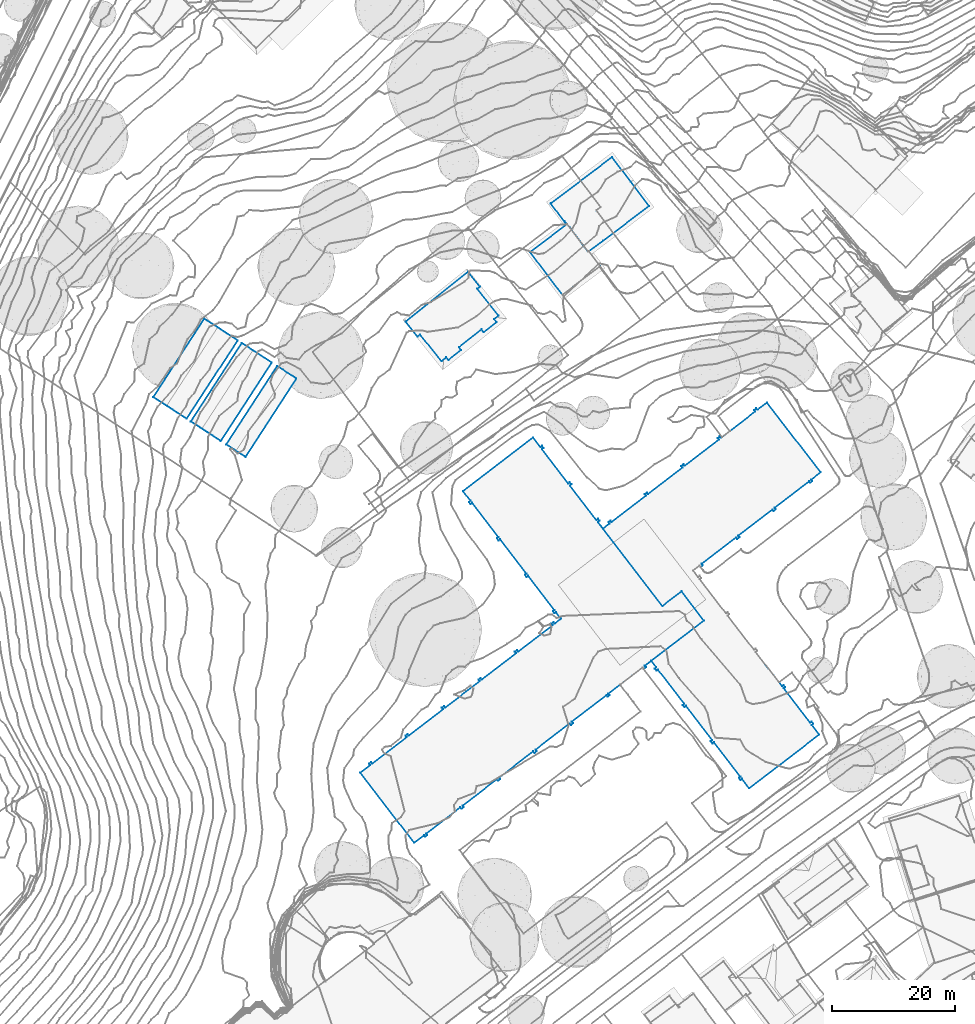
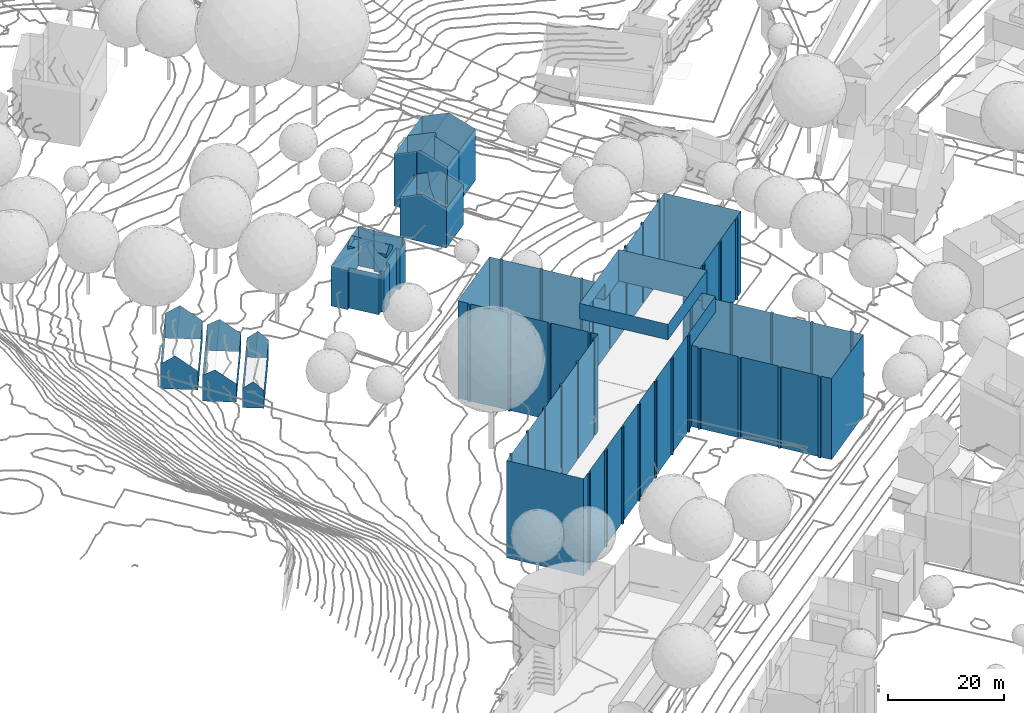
# Not in any storey, part 44 of 477: 8 walls.
"""IFC4 building model written with IfcOpenShell, lengths in metres."""

from ifc_helpers import new_model, si_unit, frame, origin_with_axes, place, context, subcontext, project, spatial, polygons, element, save


model = new_model("IFC4")

# Units and contexts
model_context = context("Model", 3, precision=1e-05, world=origin_with_axes())
body_context = subcontext(model_context, "Body", "Model", "MODEL_VIEW")
ifc_project = project(units=[si_unit("AREAUNIT", "SQUARE_METRE"), si_unit("LENGTHUNIT", "METRE")], contexts=[model_context])

# Sites, building
site_1_placement = place(None, origin_with_axes())
site_1 = spatial("IfcSite", under=ifc_project, at=site_1_placement, Name="Topoexport Site")
site_2_placement = place(site_1_placement, origin_with_axes())
site_2 = spatial("IfcSite", under=site_1, at=site_2_placement, Name="TPX_BUILDINGS")
building_1_placement = place(site_2_placement, frame((358.6987320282, 162.4100160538, 500.5526), z_axis=(0.0, 0.0, 1.0), x_axis=(1.0, 0.0, 0.0)))
building_1 = spatial("IfcBuilding", under=site_2, at=building_1_placement, Name="Building 90", CompositionType="ELEMENT")

# Wall
wall_1_placement = place(None, frame((358.6987320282, 162.4100160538, 500.5526), z_axis=(0.0, 0.0, 1.0), x_axis=(1.0, 0.0, 0.0)))
element("IfcWall", 1, at=wall_1_placement, inside=building_1, Name="Wall 0", context=body_context, shape_type="Tessellation", body=[
    polygons([(39.5829999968, 39.8338999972, 0.032), (40.6439999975, 40.6503999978, 17.1844), (39.5829999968, 39.8338999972, 17.1844), (48.2659999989, 17.2049999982, 0.032), (47.4529999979, 18.2626999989, 17.1843), (48.2659999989, 17.2049999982, 17.1843), (48.0209999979, 17.0155999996, 0.032), (48.0209999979, 17.0155999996, 17.1843), (48.2829999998, 16.6747999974, 0.032), (48.2829999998, 16.6747999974, 17.1843), (48.5279999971, 16.8631999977, 0.032), (48.5279999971, 16.8631999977, 17.1843), (52.8369999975, 11.2586999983, 0.032), (52.8369999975, 11.2588, 17.1843), (52.5920000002, 11.0692999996, 0.032), (52.5920000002, 11.0692999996, 17.1843), (52.8539999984, 10.7294999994, 0.032), (52.8539999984, 10.7294999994, 17.1843), (53.0989999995, 10.9188999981, 0.032), (53.0989999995, 10.9188999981, 17.1843), (57.4089999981, 5.3134000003, 0.0319), (57.4089999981, 5.3134000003, 17.1843), (57.1629999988, 5.125, 0.0319), (57.1629999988, 5.125, 17.1843), (57.4189999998, 4.7919999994, 0.0319), (57.4189999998, 4.7919999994, 17.1843), (57.6649999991, 4.9803999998, 0.0319), (57.6649999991, 4.9803999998, 17.1843), (61.9869999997, -0.639700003, 0.0319), (61.9869999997, -0.639700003, 17.1843), (61.7409999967, -0.8282000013, 0.0319), (61.7409999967, -0.8282000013, 17.1843), (62.0029999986, -1.1689999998, 0.0319), (62.0029999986, -1.1689999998, 17.1843), (62.248999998, -0.9805000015, 0.0319), (62.248999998, -0.9805000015, 17.1843), (63.4439999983, -2.5342000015, 0.0319), (63.4439999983, -2.5342000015, 17.1843), (74.8519999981, 6.2372999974, 0.0319), (74.8519999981, 6.2372999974, 17.1843), (73.6429999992, 7.8094999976, 0.0319), (73.6429999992, 7.8094999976, 17.1843), (73.8889999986, 7.998999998, 0.0319), (73.8889999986, 7.998999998, 17.1843), (73.6149999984, 8.3553999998, 0.0319), (73.6149999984, 8.3553999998, 17.1843), (73.368999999, 8.1669999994, 0.0319), (73.368999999, 8.1669999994, 17.1843), (69.0589999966, 13.7714999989, 0.0319), (69.0589999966, 13.7714999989, 17.1843), (69.3049999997, 13.9608999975, 0.0319), (69.3049999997, 13.9608999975, 17.1843), (69.0489999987, 14.2938999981, 0.0319), (69.0489999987, 14.2938999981, 17.1843), (68.8029999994, 14.1044999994, 0.0319), (68.8029999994, 14.1044999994, 17.1843), (64.4949999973, 19.7088999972, 0.032), (64.4949999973, 19.7088999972, 17.1843), (64.7399999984, 19.8973999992, 0.032), (64.7399999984, 19.8973999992, 17.1843), (64.4780000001, 20.2381999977, 0.032), (64.4780000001, 20.2381999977, 17.1843), (64.2329999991, 20.0497999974, 0.032), (64.2329999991, 20.0497999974, 17.1843), (59.9229999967, 25.6551999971, 0.032), (59.9229999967, 25.6551999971, 17.1843), (60.1689999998, 25.8446999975, 0.032), (60.1689999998, 25.8446999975, 17.1843), (59.9009999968, 26.1932999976, 0.032), (59.9009999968, 26.1932999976, 17.1843), (59.6549999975, 26.0047999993, 0.032), (59.6549999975, 26.0047999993, 17.1843), (55.3579999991, 31.5936999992, 0.032), (55.3579999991, 31.5936999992, 17.1843), (55.6039999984, 31.7831999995, 0.032), (55.6039999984, 31.7831999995, 17.1843), (55.3359999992, 32.1317999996, 0.032), (55.3359999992, 32.1317999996, 17.1843), (55.0899999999, 31.9422999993, 0.032), (55.0899999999, 31.9422999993, 17.1843), (54.2729999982, 33.0047999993, 0.032), (54.2729999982, 33.0047999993, 17.1843), (55.3229999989, 33.8125, 0.032), (55.3229999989, 33.8125, 17.1843), (55.5119999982, 33.566399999, 0.032), (55.5119999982, 33.566399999, 17.1843), (55.8609999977, 33.8348999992, 0.032), (55.8609999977, 33.8348999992, 17.1843), (55.6719999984, 34.0810000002, 0.032), (55.6719999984, 34.0810000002, 17.1843), (61.2839999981, 38.3954999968, 0.032), (61.2839999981, 38.3954999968, 17.1843), (61.4729999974, 38.1493999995, 0.032), (61.4729999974, 38.1493999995, 17.1843), (61.8219999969, 38.4178999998, 0.032), (61.8219999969, 38.4178999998, 17.1843), (61.6329999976, 38.6639999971, 0.032), (61.6329999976, 38.6639999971, 17.1843), (67.2209999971, 42.9618999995, 0.032), (67.2209999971, 42.9618999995, 17.1843), (67.4100000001, 42.7157999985, 0.032), (67.4100000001, 42.7157999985, 17.1843), (67.7509999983, 42.9774999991, 0.032), (67.7509999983, 42.9774999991, 17.1843), (67.561999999, 43.2236000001, 0.032), (67.561999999, 43.2236000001, 17.1843), (73.1659999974, 47.5331999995, 0.032), (73.1659999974, 47.5331999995, 17.1843), (73.3549999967, 47.2870999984, 0.032), (73.3549999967, 47.2870999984, 17.1843), (73.6949999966, 47.5487999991, 0.032), (73.6949999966, 47.5487999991, 17.1843), (73.5059999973, 47.7949000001, 0.032), (73.5059999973, 47.7949000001, 17.1843), (75.0839999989, 49.0077999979, 0.032), (75.0839999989, 49.0077999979, 17.1843), (66.3319999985, 60.4032999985, 0.032), (66.3319999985, 60.4032999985, 17.1844), (64.7649999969, 59.1991999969, 0.032), (64.7649999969, 59.1991999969, 17.1844), (64.5759999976, 59.4442999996, 0.032), (64.5759999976, 59.4442999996, 17.1844), (64.2349999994, 59.182599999, 0.032), (64.2349999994, 59.182599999, 17.1844), (64.4239999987, 58.936499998, 0.032), (64.4239999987, 58.936499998, 17.1844), (58.8279999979, 54.6338, 0.032), (58.8279999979, 54.6338, 17.1844), (58.6389999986, 54.8797999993, 0.032), (58.6389999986, 54.8797999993, 17.1844), (58.2979999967, 54.6180999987, 0.032), (58.2979999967, 54.6180999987, 17.1844), (58.4869999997, 54.3719999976, 0.032), (58.4869999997, 54.3719999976, 17.1844), (52.8829999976, 50.061499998, 0.032), (52.8829999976, 50.061499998, 17.1844), (52.6939999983, 50.307599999, 0.032), (52.6939999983, 50.307599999, 17.1844), (52.3539999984, 50.0458999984, 0.032), (52.3539999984, 50.0458999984, 17.1844), (52.5429999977, 49.7997999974, 0.032), (52.5429999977, 49.7997999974, 17.1844), (46.9299999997, 45.4833999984, 0.032), (46.9299999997, 45.4833999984, 17.1844), (46.7409999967, 45.7294999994, 0.032), (46.7409999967, 45.7294999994, 17.1844), (46.4009999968, 45.4676999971, 0.032), (46.4009999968, 45.4676999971, 17.1844), (46.5899999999, 45.2215999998, 0.032), (46.5899999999, 45.2215999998, 17.1844), (40.9849999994, 40.9129999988, 0.032), (40.9849999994, 40.9129999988, 17.1844), (40.7960000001, 41.1590999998, 0.032), (40.7960000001, 41.1590999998, 17.1844), (40.4549999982, 40.8963999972, 0.032), (40.4549999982, 40.8963999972, 17.1844), (40.6439999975, 40.6503999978, 0.032), (39.0099999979, 41.0887999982, 0.0), (38.7639999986, 40.8993999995, 20.544), (39.0099999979, 41.0887999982, 20.544), (38.7479999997, 41.4296999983, 0.0), (38.7479999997, 41.4296000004, 20.544), (38.5019999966, 41.2412, 0.0), (38.5019999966, 41.2412, 20.544), (34.1879999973, 46.8544999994, 0.0), (34.1879999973, 46.8544999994, 20.544), (34.4339999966, 47.0438999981, 0.0), (34.4339999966, 47.0438999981, 20.544), (34.1719999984, 47.3847000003, 0.0), (34.1719999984, 47.3847000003, 20.544), (33.925999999, 47.1952999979, 0.0), (33.925999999, 47.1952999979, 20.544), (29.623999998, 52.7938999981, 0.0), (29.623999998, 52.7938999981, 20.5441), (29.8699999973, 52.9824000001, 0.0), (29.8699999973, 52.9824000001, 20.5441), (29.6079999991, 53.3241999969, 0.0), (29.6079999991, 53.3241999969, 20.5441), (29.3619999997, 53.1347000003, 0.0), (29.3619999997, 53.1347000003, 20.5441), (28.1559999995, 54.7049999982, 0.0), (28.1559999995, 54.7049999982, 20.5441), (16.754999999, 45.9540999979, 0.0), (16.754999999, 45.9540999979, 20.5441), (17.9679999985, 44.3729999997, 0.0), (17.9679999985, 44.3729999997, 20.5441), (17.7219999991, 44.1835999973, 0.0), (17.7219999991, 44.1835999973, 20.5441), (17.9839999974, 43.8426999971, 0.0), (17.9839999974, 43.8426999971, 20.5441), (18.2299999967, 44.0321999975, 0.0), (18.2299999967, 44.0321999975, 20.5441), (22.5350000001, 38.422799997, 0.0), (22.5350000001, 38.422799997, 20.544), (22.2889999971, 38.2333999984, 0.0), (22.2889999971, 38.2333999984, 20.544), (22.549999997, 37.8924999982, 0.0), (22.549999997, 37.8924999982, 20.544), (22.7960000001, 38.0819999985, 0.0), (22.7960000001, 38.0819999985, 20.544), (27.0999999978, 32.4736000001, 0.0), (27.0999999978, 32.4736000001, 20.544), (26.8539999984, 32.2850999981, 0.0), (26.8539999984, 32.2850999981, 20.544), (27.1159999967, 31.9432999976, 0.0), (27.1159999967, 31.9432999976, 20.544), (27.3619999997, 32.1327999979, 0.0), (27.3619999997, 32.1327999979, 20.544), (31.6600000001, 26.5321999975, 0.0), (31.6600000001, 26.5321999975, 20.544), (31.4139999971, 26.3426999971, 0.0), (31.4139999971, 26.3426999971, 20.544), (31.675999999, 26.0018999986, 0.0), (31.675999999, 26.0018999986, 20.544), (31.9219999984, 26.1903999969, 0.0), (31.9219999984, 26.1903999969, 20.544), (32.737999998, 25.1278999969, 0.0), (32.737999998, 25.1278999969, 20.544), (31.6719999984, 24.3104999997, 0.0), (31.6719999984, 24.3104999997, 20.544), (31.4829999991, 24.556599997, 0.0), (31.4829999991, 24.556599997, 20.544), (31.1419999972, 24.2949000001, 0.0), (31.1419999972, 24.2949000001, 20.544), (31.3310000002, 24.0487999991, 0.0), (31.3310000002, 24.0487999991, 20.544), (25.7309999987, 19.75, 0.0), (25.7309999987, 19.75, 20.544), (25.5419999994, 19.9969999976, 0.0), (25.5419999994, 19.9969999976, 20.544), (25.2009999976, 19.7342999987, 0.0), (25.2009999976, 19.7342999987, 20.544), (25.3899999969, 19.4881999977, 0.0), (25.3899999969, 19.4881999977, 20.544), (19.7899999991, 15.1903999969, 0.0), (19.7899999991, 15.1903999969, 20.544), (19.6009999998, 15.436499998, 0.0), (19.6009999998, 15.436499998, 20.544), (19.2599999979, 15.1747999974, 0.0), (19.2599999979, 15.1747999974, 20.544), (19.4489999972, 14.9287, 0.0), (19.4489999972, 14.9287, 20.544), (13.8259999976, 10.6112999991, 0.0), (13.8259999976, 10.6112999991, 20.544), (13.6369999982, 10.8574000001, 0.0), (13.6369999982, 10.8574000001, 20.544), (13.2949999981, 10.5956999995, 0.0), (13.2949999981, 10.5956999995, 20.544), (13.4839999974, 10.3495999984, 0.0), (13.4839999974, 10.3495999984, 20.544), (7.8769999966, 6.0458999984, 0.0), (7.8769999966, 6.0458999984, 20.544), (7.6879999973, 6.2919999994, 0.0), (7.6879999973, 6.2919999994, 20.544), (7.3469999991, 6.0292999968, 0.0), (7.3469999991, 6.0292999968, 20.544), (7.5359999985, 5.7840999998, 0.0), (7.5359999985, 5.7840999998, 20.544), (1.9269999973, 1.4784999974, 0.0), (1.9269999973, 1.4784999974, 20.544), (1.737999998, 1.7245999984, 0.0), (1.737999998, 1.7245999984, 20.544), (1.3979999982, 1.4637999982, 0.0), (1.3979999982, 1.4637999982, 20.544), (1.5869999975, 1.2176999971, 0.0), (1.5869999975, 1.2176999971, 20.544), (0.0, 0.0, 0.0), (0.0, 0.0, 20.544), (8.7929999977, -11.4101999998, 0.0), (8.7929999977, -11.4101999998, 20.544), (10.3619999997, -10.2061000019, 0.0), (10.3619999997, -10.2061000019, 20.544), (10.550999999, -10.452200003, 0.0), (10.550999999, -10.452200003, 20.544), (10.8919999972, -10.1905000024, 0.0), (10.8919999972, -10.1905000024, 20.544), (10.7029999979, -9.9444000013, 0.0), (10.7029999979, -9.9444000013, 20.544), (16.310999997, -5.6407000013, 0.0), (16.310999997, -5.6407000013, 20.544), (16.5, -5.8868000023, 0.0), (16.5, -5.8868000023, 20.544), (16.8409999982, -5.6240999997, 0.0), (16.8409999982, -5.6240999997, 20.544), (16.6519999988, -5.3780000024, 0.0), (16.6519999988, -5.3780000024, 20.544), (22.2599999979, -1.0743000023, 0.0), (22.2599999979, -1.0743000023, 20.544), (22.4489999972, -1.3203999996, 0.0), (22.4489999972, -1.3203999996, 20.544), (22.7899999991, -1.058600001, 0.0), (22.7899999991, -1.058600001, 20.544), (22.6009999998, -0.8125, 0.0), (22.6009999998, -0.8125, 20.544), (28.2089999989, 3.4921999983, 0.0), (28.2089999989, 3.4921999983, 20.544), (28.3979999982, 3.2460999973, 0.0), (28.3979999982, 3.2460999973, 20.544), (28.7390000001, 3.5077999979, 0.0), (28.7390000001, 3.5077999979, 20.544), (28.549999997, 3.753899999, 0.0), (28.549999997, 3.753899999, 20.544), (34.1499999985, 8.052699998, 0.0), (34.1499999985, 8.052699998, 20.544), (34.3389999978, 7.806599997, 0.0), (34.3389999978, 7.806599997, 20.544), (34.6879999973, 8.0751999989, 0.0), (34.6879999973, 8.0751999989, 20.544), (34.498999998, 8.3202999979, 0.0), (34.498999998, 8.3202999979, 20.544), (40.1629999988, 12.6678999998, 0.0), (40.1629999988, 12.6678999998, 20.544), (40.3519999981, 12.4217999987, 0.0), (40.3519999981, 12.4217999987, 20.544), (40.6219999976, 12.628899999, 0.0), (40.6219999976, 12.628899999, 20.544), (40.4329999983, 12.875, 0.0), (40.4329999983, 12.875, 20.544), (46.0409999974, 17.1787, 0.0), (46.0409999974, 17.1787, 20.544), (46.2299999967, 16.932599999, 0.0), (46.2299999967, 16.932599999, 20.544), (46.5789999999, 17.2010999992, 0.0), (46.5789999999, 17.2010999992, 20.544), (46.3899999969, 17.4463, 0.0), (46.3899999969, 17.4463, 20.544), (52.379999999, 29.6044999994, 0.0), (56.0319999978, 24.8475999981, 0.032), (52.379999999, 29.6044999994, 0.0318), (54.4849999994, 26.8622999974, 17.1843), (56.0319999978, 24.8475999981, 20.544), (54.4849999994, 26.8622999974, 20.544), (49.2740000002, 27.2206999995, 0.0), (49.2740000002, 27.2206999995, 0.032), (42.3459999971, 17.5449000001, 20.544), (32.2749999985, 30.6639999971, 23.8497), (42.3459999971, 17.5449000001, 23.8497), (56.3209999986, 28.2723999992, 17.1843), (56.3209999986, 28.2723999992, 23.8497), (46.2509999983, 41.3915999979, 17.1844), (46.2509999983, 41.3915999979, 23.8497), (32.2749999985, 30.6639999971, 20.544), (41.3039999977, 37.5936999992, 20.544), (41.3039999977, 37.5936999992, 17.1844), (38.7639999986, 40.8993999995, 0.0), (56.0319999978, 24.8475999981, 17.1843), (47.4529999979, 18.2626999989, 0.032), (56.0319999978, 24.8475999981, 0.0)], [[[3, 2, 1]], [[6, 5, 4]], [[8, 6, 7]], [[10, 8, 9]], [[12, 10, 11]], [[14, 12, 13]], [[16, 14, 15]], [[18, 16, 17]], [[20, 18, 19]], [[22, 20, 21]], [[24, 22, 23]], [[26, 24, 25]], [[28, 26, 27]], [[30, 28, 29]], [[32, 30, 31]], [[34, 32, 33]], [[36, 34, 35]], [[38, 36, 37]], [[40, 38, 39]], [[42, 40, 41]], [[44, 42, 43]], [[46, 44, 45]], [[48, 46, 47]], [[50, 48, 49]], [[52, 50, 51]], [[54, 52, 53]], [[56, 54, 55]], [[58, 56, 57]], [[60, 58, 59]], [[62, 60, 61]], [[64, 62, 63]], [[66, 64, 65]], [[68, 66, 67]], [[70, 68, 69]], [[72, 70, 71]], [[74, 72, 73]], [[76, 74, 75]], [[78, 76, 77]], [[80, 78, 79]], [[82, 80, 81]], [[84, 82, 83]], [[86, 84, 85]], [[88, 86, 87]], [[90, 88, 89]], [[92, 90, 91]], [[94, 92, 93]], [[96, 94, 95]], [[98, 96, 97]], [[100, 98, 99]], [[102, 100, 101]], [[104, 102, 103]], [[106, 104, 105]], [[108, 106, 107]], [[110, 108, 109]], [[112, 110, 111]], [[114, 112, 113]], [[116, 114, 115]], [[118, 116, 117]], [[120, 118, 119]], [[122, 120, 121]], [[124, 122, 123]], [[126, 124, 125]], [[128, 126, 127]], [[130, 128, 129]], [[132, 130, 131]], [[134, 132, 133]], [[136, 134, 135]], [[138, 136, 137]], [[140, 138, 139]], [[142, 140, 141]], [[144, 142, 143]], [[146, 144, 145]], [[148, 146, 147]], [[150, 148, 149]], [[152, 150, 151]], [[154, 152, 153]], [[156, 154, 155]], [[2, 156, 157]], [[160, 159, 158]], [[162, 160, 161]], [[164, 162, 163]], [[166, 164, 165]], [[168, 166, 167]], [[170, 168, 169]], [[172, 170, 171]], [[174, 172, 173]], [[176, 174, 175]], [[178, 176, 177]], [[180, 178, 179]], [[182, 180, 181]], [[184, 182, 183]], [[186, 184, 185]], [[188, 186, 187]], [[190, 188, 189]], [[192, 190, 191]], [[194, 192, 193]], [[196, 194, 195]], [[198, 196, 197]], [[200, 198, 199]], [[202, 200, 201]], [[204, 202, 203]], [[206, 204, 205]], [[208, 206, 207]], [[210, 208, 209]], [[212, 210, 211]], [[214, 212, 213]], [[216, 214, 215]], [[218, 216, 217]], [[220, 218, 219]], [[222, 220, 221]], [[224, 222, 223]], [[226, 224, 225]], [[228, 226, 227]], [[230, 228, 229]], [[232, 230, 231]], [[234, 232, 233]], [[236, 234, 235]], [[238, 236, 237]], [[240, 238, 239]], [[242, 240, 241]], [[244, 242, 243]], [[246, 244, 245]], [[248, 246, 247]], [[250, 248, 249]], [[252, 250, 251]], [[254, 252, 253]], [[256, 254, 255]], [[258, 256, 257]], [[260, 258, 259]], [[262, 260, 261]], [[264, 262, 263]], [[266, 264, 265]], [[268, 266, 267]], [[270, 268, 269]], [[272, 270, 271]], [[274, 272, 273]], [[276, 274, 275]], [[278, 276, 277]], [[280, 278, 279]], [[282, 280, 281]], [[284, 282, 283]], [[286, 284, 285]], [[288, 286, 287]], [[290, 288, 289]], [[292, 290, 291]], [[294, 292, 293]], [[296, 294, 295]], [[298, 296, 297]], [[300, 298, 299]], [[302, 300, 301]], [[304, 302, 303]], [[306, 304, 305]], [[308, 306, 307]], [[310, 308, 309]], [[312, 310, 311]], [[314, 312, 313]], [[316, 314, 315]], [[318, 316, 317]], [[320, 318, 319]], [[322, 320, 321]], [[324, 322, 323]], [[326, 324, 325]], [[329, 328, 327]], [[332, 331, 330]], [[334, 329, 333]], [[337, 336, 335]], [[339, 332, 338]], [[332, 339, 337]], [[335, 332, 337]], [[341, 339, 340]], [[336, 343, 342]], [[343, 336, 341]], [[343, 340, 344]], [[340, 343, 341]], [[3, 345, 159]], [[1, 345, 3]], [[3, 159, 344]], [[334, 333, 1]], [[346, 331, 5]], [[325, 5, 326]], [[348, 347, 325]], [[347, 5, 325]], [[2, 157, 1]], [[5, 347, 4]], [[6, 4, 7]], [[8, 7, 9]], [[10, 9, 11]], [[12, 11, 13]], [[14, 13, 15]], [[16, 15, 17]], [[18, 17, 19]], [[20, 19, 21]], [[22, 21, 23]], [[24, 23, 25]], [[26, 25, 27]], [[28, 27, 29]], [[30, 29, 31]], [[32, 31, 33]], [[34, 33, 35]], [[36, 35, 37]], [[38, 37, 39]], [[40, 39, 41]], [[42, 41, 43]], [[44, 43, 45]], [[46, 45, 47]], [[48, 47, 49]], [[50, 49, 51]], [[52, 51, 53]], [[54, 53, 55]], [[56, 55, 57]], [[58, 57, 59]], [[60, 59, 61]], [[62, 61, 63]], [[64, 63, 65]], [[66, 65, 67]], [[68, 67, 69]], [[70, 69, 71]], [[72, 71, 73]], [[74, 73, 75]], [[76, 75, 77]], [[78, 77, 79]], [[80, 79, 81]], [[82, 81, 83]], [[84, 83, 85]], [[86, 85, 87]], [[88, 87, 89]], [[90, 89, 91]], [[92, 91, 93]], [[94, 93, 95]], [[96, 95, 97]], [[98, 97, 99]], [[100, 99, 101]], [[102, 101, 103]], [[104, 103, 105]], [[106, 105, 107]], [[108, 107, 109]], [[110, 109, 111]], [[112, 111, 113]], [[114, 113, 115]], [[116, 115, 117]], [[118, 117, 119]], [[120, 119, 121]], [[122, 121, 123]], [[124, 123, 125]], [[126, 125, 127]], [[128, 127, 129]], [[130, 129, 131]], [[132, 131, 133]], [[134, 133, 135]], [[136, 135, 137]], [[138, 137, 139]], [[140, 139, 141]], [[142, 141, 143]], [[144, 143, 145]], [[146, 145, 147]], [[148, 147, 149]], [[150, 149, 151]], [[152, 151, 153]], [[154, 153, 155]], [[156, 155, 157]], [[159, 345, 158]], [[160, 158, 161]], [[162, 161, 163]], [[164, 163, 165]], [[166, 165, 167]], [[168, 167, 169]], [[170, 169, 171]], [[172, 171, 173]], [[174, 173, 175]], [[176, 175, 177]], [[178, 177, 179]], [[180, 179, 181]], [[182, 181, 183]], [[184, 183, 185]], [[186, 185, 187]], [[188, 187, 189]], [[190, 189, 191]], [[192, 191, 193]], [[194, 193, 195]], [[196, 195, 197]], [[198, 197, 199]], [[200, 199, 201]], [[202, 201, 203]], [[204, 203, 205]], [[206, 205, 207]], [[208, 207, 209]], [[210, 209, 211]], [[212, 211, 213]], [[214, 213, 215]], [[216, 215, 217]], [[218, 217, 219]], [[220, 219, 221]], [[222, 221, 223]], [[224, 223, 225]], [[226, 225, 227]], [[228, 227, 229]], [[230, 229, 231]], [[232, 231, 233]], [[234, 233, 235]], [[236, 235, 237]], [[238, 237, 239]], [[240, 239, 241]], [[242, 241, 243]], [[244, 243, 245]], [[246, 245, 247]], [[248, 247, 249]], [[250, 249, 251]], [[252, 251, 253]], [[254, 253, 255]], [[256, 255, 257]], [[258, 257, 259]], [[260, 259, 261]], [[262, 261, 263]], [[264, 263, 265]], [[266, 265, 267]], [[268, 267, 269]], [[270, 269, 271]], [[272, 271, 273]], [[274, 273, 275]], [[276, 275, 277]], [[278, 277, 279]], [[280, 279, 281]], [[282, 281, 283]], [[284, 283, 285]], [[286, 285, 287]], [[288, 287, 289]], [[290, 289, 291]], [[292, 291, 293]], [[294, 293, 295]], [[296, 295, 297]], [[298, 297, 299]], [[300, 299, 301]], [[302, 301, 303]], [[304, 303, 305]], [[306, 305, 307]], [[308, 307, 309]], [[310, 309, 311]], [[312, 311, 313]], [[314, 313, 315]], [[316, 315, 317]], [[318, 317, 319]], [[320, 319, 321]], [[322, 321, 323]], [[324, 323, 325]], [[328, 348, 327]], [[331, 346, 330]], [[329, 327, 333]], [[336, 342, 335]], [[332, 330, 338]], [[339, 338, 340]], [[159, 343, 344]], [[333, 345, 1]], [[331, 326, 5]], [[328, 347, 348]]]),
])

# Building
building_2_placement = place(site_2_placement, frame((331.0367320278, 219.7098160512, 508.5819), z_axis=(0.0, 0.0, 1.0), x_axis=(1.0, 0.0, 0.0)))
building_2 = spatial("IfcBuilding", under=site_2, at=building_2_placement, Name="Building 91", CompositionType="ELEMENT")

# Wall
wall_2_placement = place(None, frame((331.0367320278, 219.7098160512, 508.5819), z_axis=(0.0, 0.0, 1.0), x_axis=(1.0, 0.0, 0.0)))
element("IfcWall", 2, at=wall_2_placement, inside=building_2, Name="Wall 0", context=body_context, shape_type="Tessellation", body=[
    polygons([(0.0, 0.0, 0.0), (8.3099999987, 12.7871000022, 5.4855), (0.0, 0.0, 5.4855), (13.1989999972, 9.6084000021, 0.0), (4.8889999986, -3.1777999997, 3.8936), (13.1989999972, 9.6084000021, 3.8936), (10.1079999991, 11.6181000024, 0.0), (8.3099999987, 12.7871000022, 0.0), (10.1079999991, 11.6181000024, 6.7144), (1.7980000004, -1.1689999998, 0.0), (4.8889999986, -3.1777999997, 0.0), (1.7980000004, -1.1689999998, 6.7144)], [[[3, 2, 1]], [[6, 5, 4]], [[8, 2, 7]], [[7, 2, 9]], [[7, 6, 4]], [[6, 7, 9]], [[11, 5, 10]], [[3, 5, 12]], [[1, 10, 5]], [[1, 5, 3]], [[2, 8, 1]], [[5, 11, 4]]]),
])

# Building
building_3_placement = place(site_2_placement, frame((336.8067320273, 215.9607160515, 507.462), z_axis=(0.0, 0.0, 1.0), x_axis=(1.0, 0.0, 0.0)))
building_3 = spatial("IfcBuilding", under=site_2, at=building_3_placement, Name="Building 92", CompositionType="ELEMENT")

# Wall
wall_3_placement = place(None, frame((336.8067320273, 215.9607160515, 507.462), z_axis=(0.0, 0.0, 1.0), x_axis=(1.0, 0.0, 0.0)))
element("IfcWall", 3, at=wall_3_placement, inside=building_3, Name="Wall 0", context=body_context, shape_type="Tessellation", body=[
    polygons([(0.0, 0.0, 0.0), (8.3090000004, 12.7862000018, 4.0656), (0.0, 0.0, 4.0656), (11.4519999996, 10.7422000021, 0.0), (3.1429999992, -2.0438999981, 3.7817), (11.4519999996, 10.7422000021, 3.7817), (9.8939999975, 11.754900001, 0.0), (8.3090000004, 12.7862000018, 0.0), (9.8939999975, 11.754900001, 5.5585), (1.5850000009, -1.0311999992, 0.0), (3.1429999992, -2.0438999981, 0.0), (1.5850000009, -1.0311999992, 5.5585)], [[[3, 2, 1]], [[6, 5, 4]], [[8, 2, 7]], [[7, 2, 4]], [[2, 6, 4]], [[6, 2, 9]], [[11, 5, 10]], [[3, 5, 12]], [[3, 1, 10]], [[3, 10, 5]], [[2, 8, 1]], [[5, 11, 4]]]),
])

# Building
building_4_placement = place(site_2_placement, frame((324.9327320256, 223.6766160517, 510.9427), z_axis=(0.0, 0.0, 1.0), x_axis=(1.0, 0.0, 0.0)))
building_4 = spatial("IfcBuilding", under=site_2, at=building_4_placement, Name="Building 93", CompositionType="ELEMENT")

# Wall
wall_4_placement = place(None, frame((324.9327320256, 223.6766160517, 510.9427), z_axis=(0.0, 0.0, 1.0), x_axis=(1.0, 0.0, 0.0)))
element("IfcWall", 4, at=wall_4_placement, inside=building_4, Name="Wall 0", context=body_context, shape_type="Tessellation", body=[
    polygons([(0.0, 0.0, 0.0), (8.3100000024, 12.7871000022, 5.2575), (0.0, 0.0, 5.2575), (13.7430000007, 9.2558000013, 0.0), (5.4330000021, -3.5313000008, 3.9306), (13.7430000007, 9.2558000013, 3.9306), (10.4539999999, 11.3935000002, 0.0), (8.3100000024, 12.7871000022, 0.0), (10.4539999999, 11.3935000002, 7.0203), (2.1440000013, -1.3925999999, 0.0), (5.4330000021, -3.5313000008, 0.0), (2.1440000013, -1.3925999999, 7.0203)], [[[3, 2, 1]], [[6, 5, 4]], [[8, 2, 7]], [[7, 2, 6]], [[7, 6, 4]], [[6, 2, 9]], [[11, 5, 10]], [[3, 5, 12]], [[3, 1, 10]], [[3, 10, 5]], [[2, 8, 1]], [[5, 11, 4]]]),
])

# Building
building_5_placement = place(site_2_placement, frame((366.0957320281, 236.0047160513, 506.5151), z_axis=(0.0, 0.0, 1.0), x_axis=(1.0, 0.0, 0.0)))
building_5 = spatial("IfcBuilding", under=site_2, at=building_5_placement, Name="Building 95", CompositionType="ELEMENT")

# Wall
wall_5_placement = place(None, frame((366.0957320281, 236.0047160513, 506.5151), z_axis=(0.0, 0.0, 1.0), x_axis=(1.0, 0.0, 0.0)))
element("IfcWall", 5, at=wall_5_placement, inside=building_5, Name="Wall 0", context=body_context, shape_type="Tessellation", body=[
    polygons([(11.4569999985, -1.5126999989, 9.0021), (11.4569999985, -1.5126999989, 9.8031), (10.5029999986, -0.3145000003, 9.8031), (15.1469999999, 0.9766000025, 3.2117), (13.4049999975, 3.1562000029, 8.5782), (15.1469999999, 0.9766000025, 0.0), (11.6629999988, 5.3349000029, 0.0), (12.0999999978, 5.6845999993, 8.2772), (12.0999999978, 5.6845999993, 0.0), (11.6629999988, 5.3349000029, 8.5812), (10.1539999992, 8.1191000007, 6.2104), (10.1539999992, 8.1191000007, 8.2802), (10.1539999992, 8.1191000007, 2.0698), (10.1539999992, 8.1191000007, 0.0), (6.623999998, -5.8378999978, 8.8071), (6.9679999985, -6.2665999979, 8.5192), (6.9679999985, -6.2665999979, 0.0), (6.623999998, -5.8378999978, 4.4036), (9.0219999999, -4.625, 0.0), (8.6779999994, -4.1952999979, 0.0), (9.0219999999, -4.625, 8.5222), (12.3489999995, -1.2597999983, 8.8151), (12.3489999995, -1.2597999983, 0.0), (8.6779999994, -4.1952999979, 8.8101), (12.742999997, -1.7520000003, 8.4862), (12.742999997, -1.7520000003, 0.0), (14.8279999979, -0.0849999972, 0.0), (14.4340000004, 0.4072000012, 5.5115), (14.8279999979, -0.0849999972, 8.4892), (14.4340000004, 0.4072000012, 8.8181), (14.4340000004, 0.4072000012, 0.0), (5.8429999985, -6.4618999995, 4.8185), (4.1009999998, -4.2831999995, 8.5632), (5.8429999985, -6.4618999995, 8.5662), (2.3599999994, -2.1034999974, 0.0), (5.8429999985, -6.4618999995, 0.0), (0.0, 0.0, 2.0648), (0.0, 0.0, 6.2014), (1.9459999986, -2.4345999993, 0.0), (0.0, 0.0, 8.2692), (1.9459999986, -2.4345999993, 8.2722), (0.0, 0.0, 0.0), (6.9809999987, 4.1103000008, 9.0251), (7.930999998, 2.9169999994, 9.8031), (6.9809999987, 4.1103000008, 9.8031), (9.0289999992, -3.4452999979, 9.0031), (8.0749999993, -2.2470999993, 9.8031), (9.0289999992, -3.4452999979, 9.8031), (4.5529999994, 2.1777000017, 9.0251), (4.5529999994, 2.1777000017, 9.8031), (5.5029999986, 0.9844000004, 9.8031), (10.305999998, -2.427699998, 9.0031), (10.305999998, -2.427699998, 10.869), (5.8299999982, 3.1953000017, 9.0251), (5.8299999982, 3.1953000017, 10.869), (0.2569999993, 0.2050999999, 8.4482), (9.9329999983, 7.9433000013, 0.0), (0.2569999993, 0.2050999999, 0.0), (9.9329999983, 7.9433000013, 8.4342), (14.7960000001, 0.6963, 0.0), (14.7960000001, 0.6963, 8.8191), (15.1469999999, 0.9766000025, 8.5752), (6.1889999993, -6.1855999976, 8.8061), (6.623999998, -5.8378999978, 0.0), (6.1889999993, -6.1855999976, 0.0), (2.3599999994, -2.1034999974, 8.5602)], [[[3, 2, 1]], [[6, 5, 4]], [[7, 5, 6]], [[10, 9, 8]], [[10, 7, 9]], [[12, 8, 11]], [[14, 13, 8]], [[9, 14, 8]], [[17, 16, 15]], [[18, 17, 15]], [[19, 16, 17]], [[21, 19, 20]], [[24, 23, 22]], [[24, 20, 23]], [[26, 25, 23]], [[22, 23, 25]], [[25, 26, 27]], [[30, 29, 28]], [[29, 27, 31]], [[34, 33, 32]], [[36, 32, 35]], [[33, 35, 32]], [[39, 38, 37]], [[41, 40, 39]], [[42, 39, 37]], [[41, 39, 35]], [[45, 44, 43]], [[48, 47, 46]], [[51, 50, 49]], [[1, 2, 52]], [[52, 2, 53]], [[53, 48, 46]], [[53, 46, 52]], [[49, 50, 54]], [[54, 50, 55]], [[54, 45, 43]], [[45, 54, 55]], [[40, 56, 38]], [[37, 38, 13]], [[58, 37, 57]], [[58, 42, 37]], [[11, 38, 56]], [[59, 12, 11]], [[11, 13, 38]], [[13, 57, 37]], [[14, 57, 13]], [[56, 59, 11]], [[31, 4, 28]], [[60, 6, 4]], [[31, 60, 4]], [[28, 62, 61]], [[28, 61, 30]], [[62, 28, 4]], [[15, 63, 18]], [[65, 64, 18]], [[32, 18, 63]], [[18, 32, 65]], [[65, 32, 36]], [[32, 63, 34]], [[10, 5, 7]], [[62, 4, 5]], [[11, 8, 13]], [[18, 64, 17]], [[19, 21, 16]], [[20, 24, 21]], [[25, 27, 29]], [[29, 31, 28]], [[66, 35, 33]], [[40, 38, 39]], [[35, 66, 41]]]),
])

# Building
building_6_placement = place(site_2_placement, frame((389.7587320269, 255.2674160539, 507.648), z_axis=(0.0, 0.0, 1.0), x_axis=(1.0, 0.0, 0.0)))
building_6 = spatial("IfcBuilding", under=site_2, at=building_6_placement, Name="Building 96", CompositionType="ELEMENT")

# Wall
wall_6_placement = place(None, frame((389.7587320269, 255.2674160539, 507.648), z_axis=(0.0, 0.0, 1.0), x_axis=(1.0, 0.0, 0.0)))
element("IfcWall", 6, at=wall_6_placement, inside=building_6, Name="Wall 0", context=body_context, shape_type="Tessellation", body=[
    polygons([(0.057, 0.0419999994, 10.934), (0.0, 0.0, 10.934), (0.0, 0.0, 0.0), (0.0540000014, 0.0399999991, 0.0), (2.1919999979, -2.8936000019, 12.4298), (2.2520000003, -2.9736000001, 0.0), (2.5890000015, -3.4180000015, 0.0), (2.5890000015, -3.4180000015, 12.7008), (2.6359999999, -3.380900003, 0.0), (2.6359999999, -3.380900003, 12.7008), (2.686999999, -3.3447000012, 0.0), (2.686999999, -3.3447000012, 12.7008), (3.1349999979, -3.9356000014, 13.0067), (3.1349999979, -3.9346000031, 0.0), (7.9470000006, -0.308600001, 13.0067), (4.9050000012, 3.7089999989, 10.93), (4.9050000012, 3.7089999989, 0.0), (8.1559999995, -0.5850000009, 0.0), (2.8830000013, 2.1805999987, 10.932), (6.1270000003, -7.884800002, 10.9239), (6.1270000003, -7.884800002, 0.0), (8.4750000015, -6.125, 10.9209), (10.2269999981, -4.8115000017, 10.9179), (8.5309999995, -6.0830000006, 0.0), (10.2269999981, -4.8115000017, 0.0), (7.436999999, -1.125, 0.0), (7.436999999, -1.125, 12.8618), (8.1559999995, -0.5850000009, 12.8608)], [[[3, 2, 1]], [[1, 4, 3]], [[6, 5, 3]], [[5, 2, 3]], [[8, 5, 7]], [[5, 6, 7]], [[10, 8, 9]], [[8, 7, 9]], [[10, 9, 11]], [[14, 13, 12]], [[11, 14, 12]], [[17, 16, 15]], [[18, 17, 15]], [[19, 4, 1]], [[19, 17, 4]], [[17, 19, 16]], [[13, 21, 20]], [[13, 14, 21]], [[24, 23, 22]], [[23, 24, 25]], [[22, 21, 24]], [[27, 23, 26]], [[28, 26, 18]], [[15, 28, 18]], [[11, 12, 10]], [[20, 21, 22]], [[23, 25, 26]], [[27, 26, 28]]]),
])

# Building
building_7_placement = place(site_2_placement, frame((394.6637320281, 258.9764160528, 507.648), z_axis=(0.0, 0.0, 1.0), x_axis=(1.0, 0.0, 0.0)))
building_7 = spatial("IfcBuilding", under=site_2, at=building_7_placement, Name="Building 97", CompositionType="ELEMENT")

# Wall
wall_7_placement = place(None, frame((394.6637320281, 258.9764160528, 507.648), z_axis=(0.0, 0.0, 1.0), x_axis=(1.0, 0.0, 0.0)))
element("IfcWall", 7, at=wall_7_placement, inside=building_7, Name="Wall 0", context=body_context, shape_type="Tessellation", body=[
    polygons([(0.0, 0.0, 10.93), (0.0, 0.0, 0.0), (2.5700000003, 1.9510999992, 10.926), (1.9109999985, 1.4510999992, 0.0), (5.0969999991, 3.8691000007, 0.0), (3.2509999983, -4.2939999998, 0.0), (3.0419999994, -4.0175999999, 13.0067), (8.1529999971, -0.1640999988, 13.0067), (5.0969999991, 3.8691000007, 10.921), (8.1529999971, -0.1640999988, 0.0), (8.686999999, -5.9706999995, 3.5816), (11.1429999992, -4.1103999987, 10.9249), (11.1429999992, -4.1103999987, 0.0), (5.3219999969, -8.5205000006, 0.0), (6.8779999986, -7.3418000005, 10.9199), (5.3219999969, -8.5205000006, 10.9179), (2.5319999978, -4.8339999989, 0.0), (3.2509999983, -4.2939999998, 12.8608), (2.5319999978, -4.8339999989, 12.8618)], [[[3, 2, 1]], [[3, 4, 2]], [[3, 5, 4]], [[7, 2, 6]], [[1, 2, 7]], [[5, 9, 8]], [[5, 8, 10]], [[13, 12, 11]], [[14, 13, 11]], [[11, 12, 15]], [[16, 14, 11]], [[8, 13, 10]], [[8, 12, 13]], [[19, 18, 17]], [[17, 16, 19]], [[17, 14, 16]], [[9, 5, 3]], [[11, 15, 16]], [[7, 6, 18]], [[18, 6, 17]]]),
])

# Building
building_8_placement = place(site_2_placement, frame((386.3977320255, 247.3445160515, 507.147), z_axis=(0.0, 0.0, 1.0), x_axis=(1.0, 0.0, 0.0)))
building_8 = spatial("IfcBuilding", under=site_2, at=building_8_placement, Name="Building 98", CompositionType="ELEMENT")

# Wall
wall_8_placement = place(None, frame((386.3977320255, 247.3445160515, 507.147), z_axis=(0.0, 0.0, 1.0), x_axis=(1.0, 0.0, 0.0)))
element("IfcWall", 8, at=wall_8_placement, inside=building_8, Name="Wall 0", context=body_context, shape_type="Tessellation", body=[
    polygons([(1.6540000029, -2.1875, 9.5411), (2.6130000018, -3.4569999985, 10.2291), (2.3630000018, -3.1268999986, 0.0), (0.0, 0.0, 0.0), (0.0, 0.0, 8.3542), (8.6740000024, 1.1132999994, 10.2291), (6.0480000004, 4.5782000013, 8.3482), (6.0480000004, 4.5782000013, 0.0), (8.6750000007, 1.1114000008, 0.0), (5.9979999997, 4.5410000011, 8.3482), (5.9979999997, 4.5410000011, 0.0), (5.6469999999, 5.004900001, 8.0963), (5.5989999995, 4.9678000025, 8.0963), (5.5989999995, 4.9678000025, 0.0), (5.6469999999, 5.004900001, 0.0), (5.9510000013, 4.504900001, 8.3482), (5.9510000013, 4.504900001, 0.0), (9.5879999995, 0.1182000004, 9.6661), (9.5879999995, 0.1182000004, 0.0), (11.4150000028, -2.2997999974, 8.3992), (11.4150000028, -2.2997999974, 0.0), (9.4880000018, 0.0381000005, 9.6651), (9.4880000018, 0.0381000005, 0.0), (5.2630000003, -6.9628999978, 8.3902), (5.2630000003, -6.9628999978, 0.0)], [[[3, 2, 1]], [[1, 4, 3]], [[4, 1, 5]], [[8, 7, 6]], [[6, 9, 8]], [[11, 10, 7]], [[11, 7, 8]], [[14, 13, 12]], [[14, 12, 15]], [[17, 5, 16]], [[4, 5, 17]], [[20, 19, 18]], [[20, 21, 19]], [[18, 23, 22]], [[18, 19, 23]], [[22, 9, 6]], [[22, 23, 9]], [[25, 24, 2]], [[24, 21, 20]], [[21, 24, 25]], [[10, 15, 12]], [[10, 11, 15]], [[16, 13, 17]], [[13, 14, 17]], [[25, 2, 3]]]),
])

save(model, "model.ifc")
